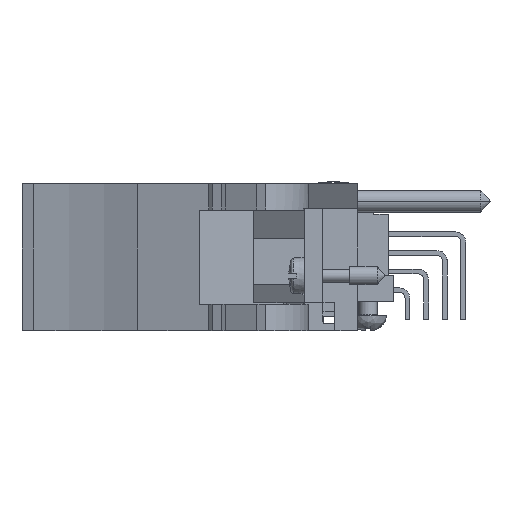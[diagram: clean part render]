
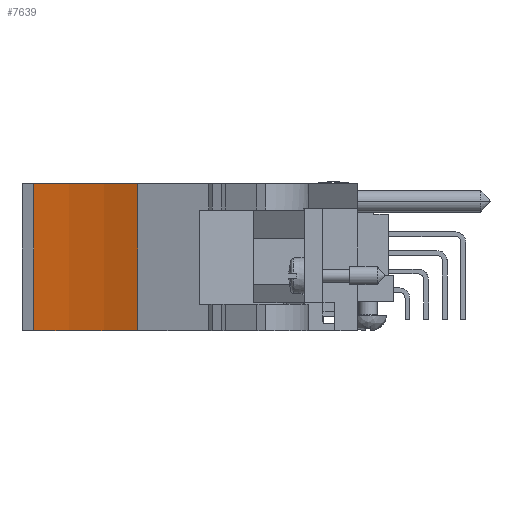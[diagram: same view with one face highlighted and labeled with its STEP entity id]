
A CAD part, front view. The second image highlights one B-rep face of the part: STEP entity #7639.
In plain terms, the highlighted cylindrical face has radius 51.46 mm (diameter 102.919 mm), a partial arc.
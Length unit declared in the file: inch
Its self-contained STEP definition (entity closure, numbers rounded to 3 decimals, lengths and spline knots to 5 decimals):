
#1325=CARTESIAN_POINT('',(-6.04901,-5.94828,
-0.09401));
#1326=DIRECTION('',(0.,0.,1.));
#1327=DIRECTION('',(0.435,0.9,0.));
#1328=AXIS2_PLACEMENT_3D('',#1325,#1326,#1327);
#1522=CARTESIAN_POINT('',(-6.04901,-5.94828,
0.69399));
#1523=DIRECTION('',(0.,0.,1.));
#1524=DIRECTION('',(0.435,0.9,0.));
#1525=AXIS2_PLACEMENT_3D('',#1522,#1523,#1524);
#1778=DIRECTION('',(0.,0.,1.));
#1779=VECTOR('',#1778,0.788);
#1780=CARTESIAN_POINT('',(-5.16697,-4.1244,
-0.094));
#1781=LINE('',#1780,#1779);
#1794=DIRECTION('',(0.,0.,1.));
#1795=VECTOR('',#1794,0.788);
#1796=CARTESIAN_POINT('',(-5.72487,-3.94841,
-0.09401));
#1797=LINE('',#1796,#1795);
#4813=CARTESIAN_POINT('',(-5.16697,-4.1244,
-0.094));
#4814=CARTESIAN_POINT('',(-5.72487,-3.94841,
-0.09401));
#4815=VERTEX_POINT('',#4813);
#4816=VERTEX_POINT('',#4814);
#4817=CARTESIAN_POINT('',(-5.16697,-4.1244,
0.694));
#4818=CARTESIAN_POINT('',(-5.72487,-3.94841,
0.69399));
#4819=VERTEX_POINT('',#4817);
#4820=VERTEX_POINT('',#4818);
#7627=CARTESIAN_POINT('',(-6.04901,-5.94828,
0.69399));
#7628=DIRECTION('',(0.,0.,1.));
#7629=DIRECTION('',(0.,1.,0.));
#7630=AXIS2_PLACEMENT_3D('',#7627,#7628,#7629);
#7631=CYLINDRICAL_SURFACE('',#7630,2.02597);
#7632=ORIENTED_EDGE('',*,*,#7128,.T.);
#7634=ORIENTED_EDGE('',*,*,#7633,.T.);
#7635=ORIENTED_EDGE('',*,*,#7252,.F.);
#7636=ORIENTED_EDGE('',*,*,#7613,.F.);
#7637=EDGE_LOOP('',(#7632,#7634,#7635,#7636));
#7638=FACE_OUTER_BOUND('',#7637,.F.);
#7639=ADVANCED_FACE('',(#7638),#7631,.F.);
#1329=CIRCLE('',#1328,2.02597);
#1526=CIRCLE('',#1525,2.02597);
#7128=EDGE_CURVE('',#4815,#4816,#1329,.T.);
#7252=EDGE_CURVE('',#4819,#4820,#1526,.T.);
#7613=EDGE_CURVE('',#4815,#4819,#1781,.T.);
#7633=EDGE_CURVE('',#4816,#4820,#1797,.T.);
